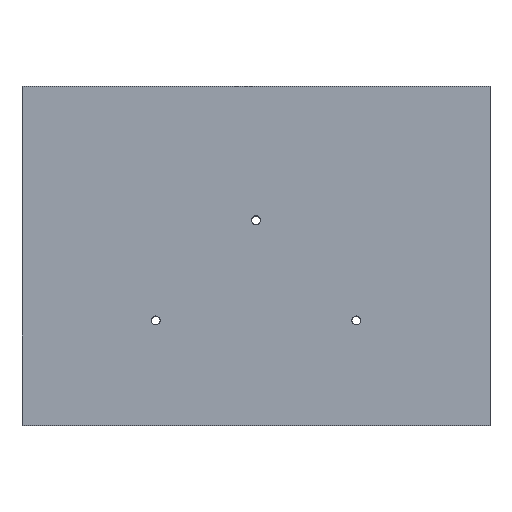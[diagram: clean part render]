
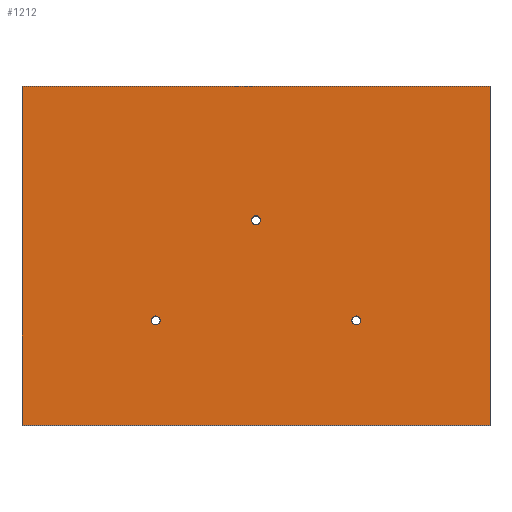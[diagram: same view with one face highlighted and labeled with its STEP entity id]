
A CAD part, top view. The second image highlights one B-rep face of the part: STEP entity #1212.
In plain terms, the highlighted planar face has unit normal (0, 0, 1).
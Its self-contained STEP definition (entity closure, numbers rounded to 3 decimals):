
#8 = LINE ( 'NONE', #891, #103 ) ;
#16 = DIRECTION ( 'NONE',  ( 1., 0., 0. ) ) ;
#28 = EDGE_CURVE ( 'NONE', #1009, #1568, #1221, .T. ) ;
#37 = CIRCLE ( 'NONE', #93, 1. ) ;
#56 = EDGE_LOOP ( 'NONE', ( #980, #125, #363, #1434 ) ) ;
#81 = CARTESIAN_POINT ( 'NONE',  ( 52.5, -38., 22.5 ) ) ;
#93 = AXIS2_PLACEMENT_3D ( 'NONE', #1351, #693, #16 ) ;
#103 = VECTOR ( 'NONE', #1444, 1000. ) ;
#125 = ORIENTED_EDGE ( 'NONE', *, *, #1341, .T. ) ;
#171 = CARTESIAN_POINT ( 'NONE',  ( -52.5, 38., 22.5 ) ) ;
#179 = EDGE_CURVE ( 'NONE', #1592, #497, #8, .T. ) ;
#180 = VERTEX_POINT ( 'NONE', #1430 ) ;
#181 = CARTESIAN_POINT ( 'NONE',  ( -52.5, -38., 22.5 ) ) ;
#191 = AXIS2_PLACEMENT_3D ( 'NONE', #1370, #1529, #223 ) ;
#204 = AXIS2_PLACEMENT_3D ( 'NONE', #1548, #1431, #254 ) ;
#223 = DIRECTION ( 'NONE',  ( 1., 0., 0. ) ) ;
#254 = DIRECTION ( 'NONE',  ( 1., 0., 0. ) ) ;
#261 = AXIS2_PLACEMENT_3D ( 'NONE', #1511, #720, #1405 ) ;
#295 = CARTESIAN_POINT ( 'NONE',  ( -22.5, -14.5, 22.5 ) ) ;
#315 = AXIS2_PLACEMENT_3D ( 'NONE', #369, #884, #764 ) ;
#363 = ORIENTED_EDGE ( 'NONE', *, *, #179, .T. ) ;
#369 = CARTESIAN_POINT ( 'NONE',  ( -22.5, -14.5, 22.5 ) ) ;
#377 = CARTESIAN_POINT ( 'NONE',  ( -52.5, 38., 22.5 ) ) ;
#379 = ORIENTED_EDGE ( 'NONE', *, *, #821, .F. ) ;
#416 = VERTEX_POINT ( 'NONE', #735 ) ;
#421 = VECTOR ( 'NONE', #892, 1000. ) ;
#471 = CARTESIAN_POINT ( 'NONE',  ( 21.5, -14.5, 22.5 ) ) ;
#488 = CIRCLE ( 'NONE', #1451, 1. ) ;
#497 = VERTEX_POINT ( 'NONE', #1118 ) ;
#502 = EDGE_LOOP ( 'NONE', ( #1222, #1526 ) ) ;
#525 = VERTEX_POINT ( 'NONE', #471 ) ;
#602 = DIRECTION ( 'NONE',  ( 1., 0., 0. ) ) ;
#623 = PLANE ( 'NONE',  #191 ) ;
#636 = EDGE_CURVE ( 'NONE', #180, #416, #1346, .T. ) ;
#641 = CIRCLE ( 'NONE', #204, 1. ) ;
#693 = DIRECTION ( 'NONE',  ( 0., 0., 1. ) ) ;
#695 = EDGE_LOOP ( 'NONE', ( #880, #379 ) ) ;
#720 = DIRECTION ( 'NONE',  ( 0., 0., 1. ) ) ;
#735 = CARTESIAN_POINT ( 'NONE',  ( -52.5, -38., 22.5 ) ) ;
#740 = EDGE_CURVE ( 'NONE', #795, #903, #488, .T. ) ;
#742 = FACE_BOUND ( 'NONE', #502, .T. ) ;
#764 = DIRECTION ( 'NONE',  ( 1., 0., 0. ) ) ;
#771 = CARTESIAN_POINT ( 'NONE',  ( 1., 8., 22.5 ) ) ;
#795 = VERTEX_POINT ( 'NONE', #1111 ) ;
#812 = DIRECTION ( 'NONE',  ( 0., 0., 1. ) ) ;
#821 = EDGE_CURVE ( 'NONE', #525, #870, #1042, .T. ) ;
#832 = DIRECTION ( 'NONE',  ( 1., 0., 0. ) ) ;
#834 = FACE_OUTER_BOUND ( 'NONE', #56, .T. ) ;
#854 = AXIS2_PLACEMENT_3D ( 'NONE', #295, #812, #1343 ) ;
#870 = VERTEX_POINT ( 'NONE', #1180 ) ;
#880 = ORIENTED_EDGE ( 'NONE', *, *, #1096, .F. ) ;
#884 = DIRECTION ( 'NONE',  ( 0., 0., 1. ) ) ;
#891 = CARTESIAN_POINT ( 'NONE',  ( 52.5, 38., 22.5 ) ) ;
#892 = DIRECTION ( 'NONE',  ( -1., 0., 0. ) ) ;
#903 = VERTEX_POINT ( 'NONE', #771 ) ;
#921 = ORIENTED_EDGE ( 'NONE', *, *, #740, .F. ) ;
#939 = EDGE_CURVE ( 'NONE', #497, #180, #1675, .T. ) ;
#946 = EDGE_LOOP ( 'NONE', ( #1181, #921 ) ) ;
#949 = EDGE_CURVE ( 'NONE', #903, #795, #641, .T. ) ;
#963 = EDGE_CURVE ( 'NONE', #1568, #1009, #1156, .T. ) ;
#971 = VECTOR ( 'NONE', #1078, 1000. ) ;
#980 = ORIENTED_EDGE ( 'NONE', *, *, #636, .T. ) ;
#990 = FACE_BOUND ( 'NONE', #946, .T. ) ;
#1009 = VERTEX_POINT ( 'NONE', #1208 ) ;
#1020 = FACE_BOUND ( 'NONE', #695, .T. ) ;
#1042 = CIRCLE ( 'NONE', #261, 1. ) ;
#1078 = DIRECTION ( 'NONE',  ( 0., -1., 0. ) ) ;
#1093 = LINE ( 'NONE', #181, #1534 ) ;
#1096 = EDGE_CURVE ( 'NONE', #870, #525, #37, .T. ) ;
#1105 = CARTESIAN_POINT ( 'NONE',  ( 0., 8., 22.5 ) ) ;
#1111 = CARTESIAN_POINT ( 'NONE',  ( -1., 8., 22.5 ) ) ;
#1118 = CARTESIAN_POINT ( 'NONE',  ( 52.5, 38., 22.5 ) ) ;
#1138 = DIRECTION ( 'NONE',  ( 0., 0., 1. ) ) ;
#1156 = CIRCLE ( 'NONE', #315, 1. ) ;
#1180 = CARTESIAN_POINT ( 'NONE',  ( 23.5, -14.5, 22.5 ) ) ;
#1181 = ORIENTED_EDGE ( 'NONE', *, *, #949, .F. ) ;
#1208 = CARTESIAN_POINT ( 'NONE',  ( -21.5, -14.5, 22.5 ) ) ;
#1212 = ADVANCED_FACE ( 'NONE', ( #990, #1020, #742, #834 ), #623, .T. ) ;
#1221 = CIRCLE ( 'NONE', #854, 1. ) ;
#1222 = ORIENTED_EDGE ( 'NONE', *, *, #28, .F. ) ;
#1341 = EDGE_CURVE ( 'NONE', #416, #1592, #1093, .T. ) ;
#1343 = DIRECTION ( 'NONE',  ( 1., 0., 0. ) ) ;
#1346 = LINE ( 'NONE', #171, #971 ) ;
#1351 = CARTESIAN_POINT ( 'NONE',  ( 22.5, -14.5, 22.5 ) ) ;
#1370 = CARTESIAN_POINT ( 'NONE',  ( 0., 0., 22.5 ) ) ;
#1405 = DIRECTION ( 'NONE',  ( 1., 0., 0. ) ) ;
#1430 = CARTESIAN_POINT ( 'NONE',  ( -52.5, 38., 22.5 ) ) ;
#1431 = DIRECTION ( 'NONE',  ( 0., 0., 1. ) ) ;
#1434 = ORIENTED_EDGE ( 'NONE', *, *, #939, .T. ) ;
#1444 = DIRECTION ( 'NONE',  ( 0., 1., 0. ) ) ;
#1451 = AXIS2_PLACEMENT_3D ( 'NONE', #1105, #1138, #602 ) ;
#1511 = CARTESIAN_POINT ( 'NONE',  ( 22.5, -14.5, 22.5 ) ) ;
#1526 = ORIENTED_EDGE ( 'NONE', *, *, #963, .F. ) ;
#1529 = DIRECTION ( 'NONE',  ( 0., 0., 1. ) ) ;
#1534 = VECTOR ( 'NONE', #832, 1000. ) ;
#1544 = CARTESIAN_POINT ( 'NONE',  ( -23.5, -14.5, 22.5 ) ) ;
#1548 = CARTESIAN_POINT ( 'NONE',  ( 0., 8., 22.5 ) ) ;
#1568 = VERTEX_POINT ( 'NONE', #1544 ) ;
#1592 = VERTEX_POINT ( 'NONE', #81 ) ;
#1675 = LINE ( 'NONE', #377, #421 ) ;
